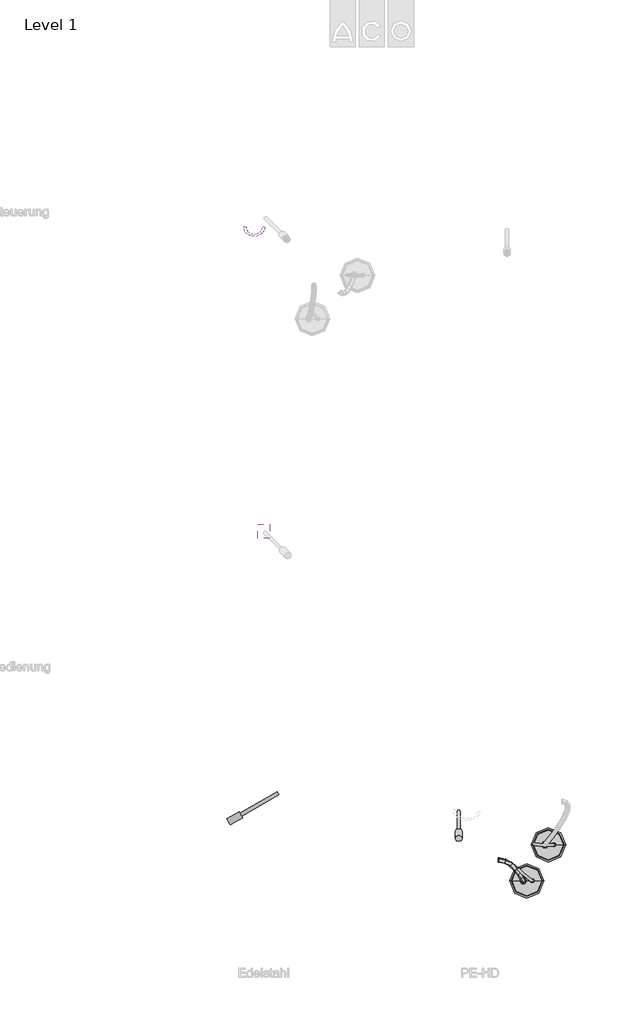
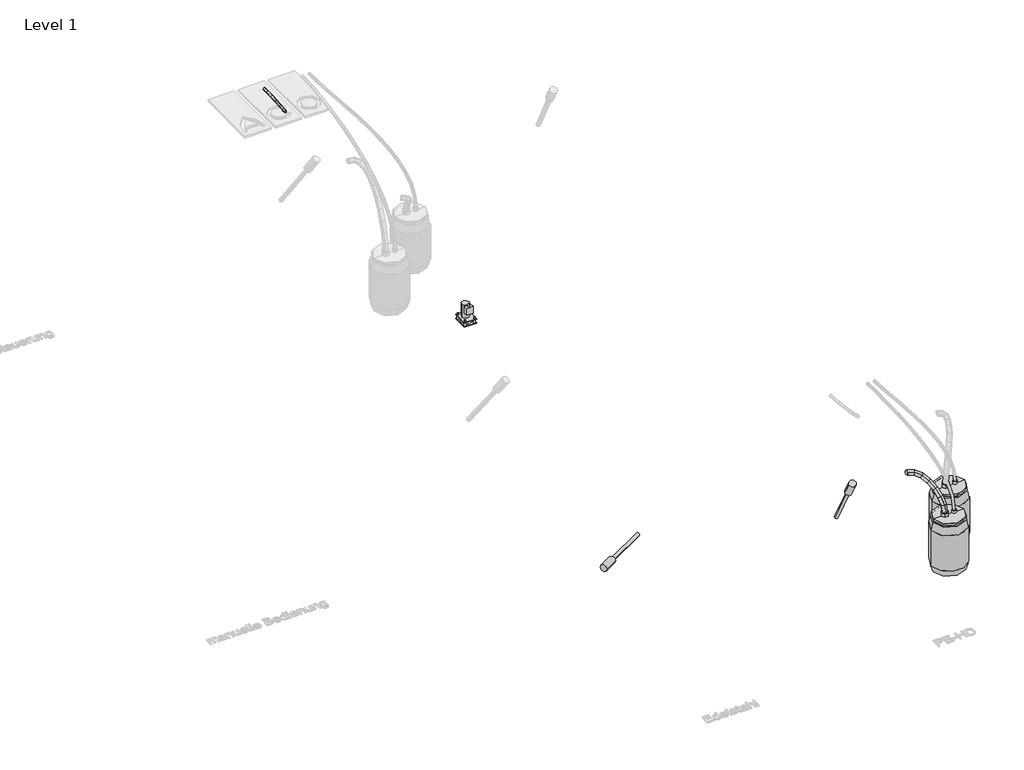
# One storey, part 1 of 6: 5 unitary equipment elements, 2 pipe segments.
"""IFC4 building model written with IfcOpenShell, lengths in millimetres."""

from ifc_helpers import new_model, si_unit, frame, origin, place, context, project, spatial, circle_curve, ellipse_curve, transform, mapped, element, save
from ifc_brep_helpers import plane_surface, cylinder_surface, advanced_brep
from components import ns4_677a0f8f, std_bcf9d813, std_59afe5f4

model = new_model("IFC4")

# Units and contexts
model_context = context("Model", 3, world=origin())
ifc_project = project(units=[si_unit("LENGTHUNIT", "METRE", prefix="MILLI")], contexts=[model_context])

# Site, building, storey
site = spatial("IfcSite", under=ifc_project)
building = spatial("IfcBuilding", under=site)
storey = spatial("IfcBuildingStorey", under=building, Name="Level 1", Elevation=0.0)

# Pipe segments
placement = place(None, origin())
element("IfcPipeSegment", 1, ObjectType="Flex - Round", at=placement, inside=storey, context=model_context, shape_type="AdvancedBrep", body=[
    advanced_brep(
    [(2705.0, 2470.0, 633.6079188), (2680.0, 2445.0, 633.6079188), (2655.0, 2470.0, 633.6079188), (2680.0, 2495.0, 633.6079188), (2705.0, 2470.0, 638.9932244), (2680.0, 2445.0, 640.1660876), (2655.0, 2470.0, 637.0497281), (2680.0, 2495.0, 635.8768648), (2405.5, 2715.1686708, 1053.9324494), (2405.5, 2722.4324494, 1019.3313292), (2405.5, 2687.8313292, 1012.0675506), (2405.5, 2680.5675506, 1046.6686708), (2698.9920305, 2483.2593617, 715.5907442), (2673.8107981, 2458.6593346, 719.0741965), (2649.386914, 2482.3878687, 708.612752), (2674.5681464, 2506.9878957, 705.1292997), (2681.0769089, 2517.5213547, 797.4116304), (2655.6345473, 2493.4207273, 802.0876964), (2632.7168517, 2514.2687328, 784.7472766), (2658.1592133, 2538.3693601, 780.0712105), (2651.4850718, 2564.3650989, 874.9840204), (2626.2434815, 2539.9466515, 879.1337823), (2605.1763503, 2557.8652218, 856.942271), (2630.4179406, 2582.2836692, 852.7925092), (2610.0898568, 2615.8277319, 944.1428437), (2586.0100897, 2589.9649031, 946.3515522), (2567.3090462, 2604.9419474, 920.2070277), (2591.3888133, 2630.8047762, 917.9983191), (2556.189398, 2664.1043847, 1000.6846708), (2535.3450293, 2635.3437289, 999.4994316), (2520.233779, 2647.1055279, 969.5891976), (2541.0781477, 2675.8661836, 970.7744367), (2488.331597, 2700.8119739, 1039.6819612), (2474.939493, 2668.0200252, 1034.2139701), (2465.819621, 2676.5407958, 1000.8605428), (2479.211725, 2709.3327445, 1006.3285339), (2413.2076157, 2715.1686708, 1053.9324494), (2409.2823248, 2680.5675506, 1046.6686708), (2406.7398879, 2687.8313292, 1012.0675506), (2410.6651787, 2722.4324494, 1019.3313292)],
    [
        (0, 1, circle_curve(frame((2680.0, 2470.0, 633.6079188), z_axis=(0.0, 0.0, -1.0), x_axis=(1.0, 0.0, 0.0)), 25.0)),
        (1, 2, circle_curve(frame((2680.0, 2470.0, 633.6079188), z_axis=(0.0, 0.0, -1.0), x_axis=(1.0, 0.0, 0.0)), 25.0)),
        (2, 3, circle_curve(frame((2680.0, 2470.0, 633.6079188), z_axis=(0.0, 0.0, -1.0), x_axis=(1.0, 0.0, 0.0)), 25.0)),
        (3, 0, circle_curve(frame((2680.0, 2470.0, 633.6079188), z_axis=(0.0, 0.0, -1.0), x_axis=(1.0, 0.0, 0.0)), 25.0)),
        (0, 4),
        (4, 5, ellipse_curve(frame((2680.0, 2470.0, 638.0214762), z_axis=(0.03869867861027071, -0.08540652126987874, -0.9955943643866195), x_axis=(-0.4109018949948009, 0.9068449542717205, -0.09376492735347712)), 25.1106283, 25.0)),
        (5, 1),
        (5, 6, ellipse_curve(frame((2680.0, 2470.0, 638.0214762), z_axis=(0.03869867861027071, -0.08540652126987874, -0.9955943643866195), x_axis=(-0.4109018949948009, 0.9068449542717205, -0.09376492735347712)), 25.1106283, 25.0)),
        (6, 2),
        (6, 7, ellipse_curve(frame((2680.0, 2470.0, 638.0214762), z_axis=(0.03869867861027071, -0.08540652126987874, -0.9955943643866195), x_axis=(-0.4109018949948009, 0.9068449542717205, -0.09376492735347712)), 25.1106283, 25.0)),
        (7, 3),
        (7, 4, ellipse_curve(frame((2680.0, 2470.0, 638.0214762), z_axis=(0.03869867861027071, -0.08540652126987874, -0.9955943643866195), x_axis=(-0.4109018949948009, 0.9068449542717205, -0.09376492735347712)), 25.1106283, 25.0)),
        (8, 9, circle_curve(frame((2405.5, 2701.5, 1033.0), z_axis=(-1.0, 0.0, 0.0), x_axis=(0.0, 0.546746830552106, 0.8372979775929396)), 25.0)),
        (9, 10, circle_curve(frame((2405.5, 2701.5, 1033.0), z_axis=(-1.0, 0.0, 0.0), x_axis=(0.0, 0.546746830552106, 0.8372979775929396)), 25.0)),
        (10, 11, circle_curve(frame((2405.5, 2701.5, 1033.0), z_axis=(-1.0, 0.0, 0.0), x_axis=(0.0, 0.546746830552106, 0.8372979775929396)), 25.0)),
        (11, 8, circle_curve(frame((2405.5, 2701.5, 1033.0), z_axis=(-1.0, 0.0, 0.0), x_axis=(0.0, 0.546746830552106, 0.8372979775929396)), 25.0)),
        (4, 12),
        (12, 13, ellipse_curve(frame((2674.1894723, 2482.8236152, 712.1017481), z_axis=(0.13862896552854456, -0.2765614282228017, -0.9509446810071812), x_axis=(-0.4770582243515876, 0.8228186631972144, -0.3088444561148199)), 25.2031893, 25.0)),
        (13, 5),
        (13, 14, ellipse_curve(frame((2674.1894723, 2482.8236152, 712.1017481), z_axis=(0.13862896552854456, -0.2765614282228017, -0.9509446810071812), x_axis=(-0.4770582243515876, 0.8228186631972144, -0.3088444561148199)), 25.2031893, 25.0)),
        (14, 6),
        (14, 15, ellipse_curve(frame((2674.1894723, 2482.8236152, 712.1017481), z_axis=(0.13862896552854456, -0.2765614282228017, -0.9509446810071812), x_axis=(-0.4770582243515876, 0.8228186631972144, -0.3088444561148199)), 25.2031893, 25.0)),
        (15, 7),
        (15, 12, ellipse_curve(frame((2674.1894723, 2482.8236152, 712.1017481), z_axis=(0.13862896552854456, -0.2765614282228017, -0.9509446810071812), x_axis=(-0.4770582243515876, 0.8228186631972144, -0.3088444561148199)), 25.2031893, 25.0)),
        (12, 16),
        (16, 17, ellipse_curve(frame((2656.8968803, 2515.8950437, 791.0794535), z_axis=(0.25526570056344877, -0.43683369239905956, -0.8625634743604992), x_axis=(-0.6140354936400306, 0.61587461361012, -0.49361814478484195)), 25.1054761, 25.0)),
        (17, 13),
        (17, 18, ellipse_curve(frame((2656.8968803, 2515.8950437, 791.0794535), z_axis=(0.25526570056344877, -0.43683369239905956, -0.8625634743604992), x_axis=(-0.6140354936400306, 0.61587461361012, -0.49361814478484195)), 25.1054761, 25.0)),
        (18, 14),
        (18, 19, ellipse_curve(frame((2656.8968803, 2515.8950437, 791.0794535), z_axis=(0.25526570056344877, -0.43683369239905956, -0.8625634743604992), x_axis=(-0.6140354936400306, 0.61587461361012, -0.49361814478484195)), 25.1054761, 25.0)),
        (19, 15),
        (19, 16, ellipse_curve(frame((2656.8968803, 2515.8950437, 791.0794535), z_axis=(0.25526570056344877, -0.43683369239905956, -0.8625634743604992), x_axis=(-0.6140354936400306, 0.61587461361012, -0.49361814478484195)), 25.1054761, 25.0)),
        (16, 20),
        (20, 21, ellipse_curve(frame((2628.3307111, 2561.1151603, 865.9631457), z_axis=(0.37283117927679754, -0.5164120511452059, -0.7709186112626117), x_axis=(-0.7686667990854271, 0.29349250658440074, -0.5683427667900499)), 25.0796862, 25.0)),
        (21, 17),
        (21, 22, ellipse_curve(frame((2628.3307111, 2561.1151603, 865.9631457), z_axis=(0.37283117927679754, -0.5164120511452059, -0.7709186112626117), x_axis=(-0.7686667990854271, 0.29349250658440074, -0.5683427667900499)), 25.0796862, 25.0)),
        (22, 18),
        (22, 23, ellipse_curve(frame((2628.3307111, 2561.1151603, 865.9631457), z_axis=(0.37283117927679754, -0.5164120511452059, -0.7709186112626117), x_axis=(-0.7686667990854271, 0.29349250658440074, -0.5683427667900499)), 25.0796862, 25.0)),
        (23, 19),
        (23, 20, ellipse_curve(frame((2628.3307111, 2561.1151603, 865.9631457), z_axis=(0.37283117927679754, -0.5164120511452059, -0.7709186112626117), x_axis=(-0.7686667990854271, 0.29349250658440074, -0.5683427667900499)), 25.0796862, 25.0)),
        (20, 24),
        (24, 25, ellipse_curve(frame((2588.6994515, 2610.3848396, 932.1749357), z_axis=(0.5121884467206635, -0.5343040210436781, -0.672444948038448), x_axis=(-0.8183815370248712, -0.0660460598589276, -0.5708673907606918)), 25.1115167, 25.0)),
        (25, 21),
        (25, 26, ellipse_curve(frame((2588.6994515, 2610.3848396, 932.1749357), z_axis=(0.5121884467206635, -0.5343040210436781, -0.672444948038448), x_axis=(-0.8183815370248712, -0.0660460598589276, -0.5708673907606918)), 25.1115167, 25.0)),
        (26, 22),
        (26, 27, ellipse_curve(frame((2588.6994515, 2610.3848396, 932.1749357), z_axis=(0.5121884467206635, -0.5343040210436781, -0.672444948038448), x_axis=(-0.8183815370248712, -0.0660460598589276, -0.5708673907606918)), 25.1115167, 25.0)),
        (27, 23),
        (27, 24, ellipse_curve(frame((2588.6994515, 2610.3848396, 932.1749357), z_axis=(0.5121884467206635, -0.5343040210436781, -0.672444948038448), x_axis=(-0.8183815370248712, -0.0660460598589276, -0.5708673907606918)), 25.1115167, 25.0)),
        (24, 28),
        (28, 29, ellipse_curve(frame((2538.2115885, 2655.6049563, 985.1369342), z_axis=(0.6926210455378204, -0.479783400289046, -0.5385944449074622), x_axis=(-0.7158302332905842, -0.36541480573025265, -0.5950286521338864)), 25.2426199, 25.0)),
        (29, 25),
        (29, 30, ellipse_curve(frame((2538.2115885, 2655.6049563, 985.1369342), z_axis=(0.6926210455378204, -0.479783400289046, -0.5385944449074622), x_axis=(-0.7158302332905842, -0.36541480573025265, -0.5950286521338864)), 25.2426199, 25.0)),
        (30, 26),
        (30, 31, ellipse_curve(frame((2538.2115885, 2655.6049563, 985.1369342), z_axis=(0.6926210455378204, -0.479783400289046, -0.5385944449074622), x_axis=(-0.7158302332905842, -0.36541480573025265, -0.5950286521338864)), 25.2426199, 25.0)),
        (31, 27),
        (31, 28, ellipse_curve(frame((2538.2115885, 2655.6049563, 985.1369342), z_axis=(0.6926210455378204, -0.479783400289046, -0.5385944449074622), x_axis=(-0.7158302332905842, -0.36541480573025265, -0.5950286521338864)), 25.2426199, 25.0)),
        (28, 32),
        (32, 33, ellipse_curve(frame((2477.075609, 2688.6763848, 1020.271252), z_axis=(0.8935799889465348, -0.3109465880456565, -0.32377001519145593), x_axis=(-0.44868983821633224, -0.5963929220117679, -0.6655771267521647)), 25.5224018, 25.0)),
        (33, 29),
        (33, 34, ellipse_curve(frame((2477.075609, 2688.6763848, 1020.271252), z_axis=(0.8935799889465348, -0.3109465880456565, -0.32377001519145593), x_axis=(-0.44868983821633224, -0.5963929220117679, -0.6655771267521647)), 25.5224018, 25.0)),
        (34, 30),
        (34, 35, ellipse_curve(frame((2477.075609, 2688.6763848, 1020.271252), z_axis=(0.8935799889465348, -0.3109465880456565, -0.32377001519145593), x_axis=(-0.44868983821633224, -0.5963929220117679, -0.6655771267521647)), 25.5224018, 25.0)),
        (35, 31),
        (35, 32, ellipse_curve(frame((2477.075609, 2688.6763848, 1020.271252), z_axis=(0.8935799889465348, -0.3109465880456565, -0.32377001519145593), x_axis=(-0.44868983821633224, -0.5963929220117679, -0.6655771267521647)), 25.5224018, 25.0)),
        (32, 36),
        (36, 37, ellipse_curve(frame((2409.9737518, 2701.5, 1033.0), z_axis=(0.9913644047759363, -0.09307068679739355, -0.09238216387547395), x_axis=(-0.1311358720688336, -0.703598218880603, -0.6983931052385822)), 25.2177705, 25.0)),
        (37, 33),
        (37, 38, ellipse_curve(frame((2409.9737518, 2701.5, 1033.0), z_axis=(0.9913644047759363, -0.09307068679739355, -0.09238216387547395), x_axis=(-0.1311358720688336, -0.703598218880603, -0.6983931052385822)), 25.2177705, 25.0)),
        (38, 34),
        (38, 39, ellipse_curve(frame((2409.9737518, 2701.5, 1033.0), z_axis=(0.9913644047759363, -0.09307068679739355, -0.09238216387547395), x_axis=(-0.1311358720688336, -0.703598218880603, -0.6983931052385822)), 25.2177705, 25.0)),
        (39, 35),
        (39, 36, ellipse_curve(frame((2409.9737518, 2701.5, 1033.0), z_axis=(0.9913644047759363, -0.09307068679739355, -0.09238216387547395), x_axis=(-0.1311358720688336, -0.703598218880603, -0.6983931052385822)), 25.2177705, 25.0)),
        (36, 8),
        (11, 37),
        (10, 38),
        (9, 39),
    ],
    [
        plane_surface(frame((2680.0, 2445.0, 633.6079188), z_axis=(0.0, 0.0, -1.0), x_axis=(1.0, 0.0, 0.0))),
        cylinder_surface(frame((2680.0, 2470.0, 633.6079188), z_axis=(0.0, 0.0, -1.0), x_axis=(1.0, 0.0, 0.0)), 25.0),
        plane_surface(frame((2405.5, 2701.5, 1008.0), z_axis=(-1.0, 0.0, 0.0), x_axis=(0.0, -1.0, 0.0))),
        cylinder_surface(frame((2680.0, 2470.0, 638.0214762), z_axis=(0.07705637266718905, -0.1700605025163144, -0.9824162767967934), x_axis=(0.997004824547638, 0.006610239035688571, 0.07705637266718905)), 25.0),
        cylinder_surface(frame((2674.1894723, 2482.8236152, 712.1017481), z_axis=(0.1979662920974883, -0.37860305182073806, -0.9041399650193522), x_axis=(0.9795072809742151, 0.04151741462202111, 0.1970832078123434)), 25.0),
        cylinder_surface(frame((2656.8968803, 2515.8950437, 791.0794535), z_axis=(0.3104202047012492, -0.4913937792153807, -0.8137391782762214), x_axis=(0.9479045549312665, 0.09559885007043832, 0.3038713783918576)), 25.0),
        cylinder_surface(frame((2628.3307111, 2561.1151603, 865.9631457), z_axis=(0.4328729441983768, -0.5381487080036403, -0.7231991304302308), x_axis=(0.8958723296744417, 0.1676691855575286, 0.41146058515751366)), 25.0),
        cylinder_surface(frame((2588.6994515, 2610.3848396, 932.1749357), z_axis=(0.586954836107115, -0.5257137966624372, -0.6157182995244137), x_axis=(0.8010308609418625, 0.26660577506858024, 0.5359766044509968)), 25.0),
        cylinder_surface(frame((2538.2115885, 2655.6049563, 985.1369342), z_axis=(0.7849729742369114, -0.4246301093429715, -0.4511171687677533), x_axis=(0.6095574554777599, 0.3992407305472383, 0.6848697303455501)), 25.0),
        cylinder_surface(frame((2477.075609, 2688.6763848, 1020.271252), z_axis=(0.965606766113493, -0.1845339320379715, -0.1831687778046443), x_axis=(0.25426018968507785, 0.5228765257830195, 0.8136042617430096)), 25.0),
        cylinder_surface(frame((2409.9737518, 2701.5, 1033.0), z_axis=(1.0000000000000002, 0.0, 0.0), x_axis=(0.0, 0.546746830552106, 0.8372979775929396)), 25.0),
    ],
    [
        (0, [[1, 2, 3, 4]]),
        (1, [[-1, 5, 6, 7]]),
        (1, [[-2, -7, 8, 9]]),
        (1, [[-3, -9, 10, 11]]),
        (1, [[-4, -11, 12, -5]]),
        (2, [[13, 14, 15, 16]]),
        (3, [[-6, 17, 18, 19]]),
        (3, [[-8, -19, 20, 21]]),
        (3, [[-10, -21, 22, 23]]),
        (3, [[-12, -23, 24, -17]]),
        (4, [[-18, 25, 26, 27]]),
        (4, [[-20, -27, 28, 29]]),
        (4, [[-22, -29, 30, 31]]),
        (4, [[-24, -31, 32, -25]]),
        (5, [[-26, 33, 34, 35]]),
        (5, [[-28, -35, 36, 37]]),
        (5, [[-30, -37, 38, 39]]),
        (5, [[-32, -39, 40, -33]]),
        (6, [[-34, 41, 42, 43]]),
        (6, [[-36, -43, 44, 45]]),
        (6, [[-38, -45, 46, 47]]),
        (6, [[-40, -47, 48, -41]]),
        (7, [[-42, 49, 50, 51]]),
        (7, [[-44, -51, 52, 53]]),
        (7, [[-46, -53, 54, 55]]),
        (7, [[-48, -55, 56, -49]]),
        (8, [[-50, 57, 58, 59]]),
        (8, [[-52, -59, 60, 61]]),
        (8, [[-54, -61, 62, 63]]),
        (8, [[-56, -63, 64, -57]]),
        (9, [[-58, 65, 66, 67]]),
        (9, [[-60, -67, 68, 69]]),
        (9, [[-62, -69, 70, 71]]),
        (9, [[-64, -71, 72, -65]]),
        (10, [[-66, 73, -16, 74]]),
        (10, [[-68, -74, -15, 75]]),
        (10, [[-70, -75, -14, 76]]),
        (10, [[-72, -76, -13, -73]]),
    ],
),
])
element("IfcPipeSegment", 2, ObjectType="Flex - Round", at=placement, inside=storey, context=model_context, shape_type="AdvancedBrep", body=[
    advanced_brep(
    [(-187.5, 9730.0, 1784.0), (-200.0, 9730.0, 1771.5), (-212.5, 9730.0, 1784.0), (-200.0, 9730.0, 1796.5), (-187.5, 9724.759357, 1784.0), (-200.0, 9724.0243361, 1771.5), (-212.5, 9727.6105543, 1784.0), (-200.0, 9728.3455751, 1796.5), (-403.5826381, 9730.0, 2111.4921518), (-397.0078482, 9730.0, 2095.0826381), (-413.4173619, 9730.0, 2088.5078482), (-419.9921518, 9730.0, 2104.9173619), (-197.2026504, 9684.0459208, 1798.705216), (-210.0860753, 9681.7020049, 1786.78633), (-220.7153183, 9693.1381344, 1796.451034), (-207.8318934, 9695.4820503, 1808.36992), (-222.2190918, 9652.7190245, 1836.6198226), (-235.8229476, 9649.4729474, 1825.7928127), (-242.9371582, 9665.3107844, 1830.1301774), (-229.3333024, 9668.5568615, 1840.9571873), (-256.5618153, 9634.4678019, 1888.6692261), (-270.6555542, 9630.9613795, 1878.5846769), (-275.3795909, 9648.0694592, 1879.2995239), (-261.285852, 9651.5758817, 1889.3840731), (-295.5413191, 9628.4441721, 1947.7460759), (-309.9960759, 9624.8819603, 1938.2086809), (-312.9586809, 9642.2622398, 1936.2539241), (-298.5039241, 9645.8244516, 1945.7913191), (-334.5208228, 9634.4678019, 2006.8229256), (-349.3365975, 9630.9613795, 1997.832685), (-350.537771, 9648.0694592, 1993.2083244), (-335.7219962, 9651.5758817, 2002.198565), (-368.8635463, 9652.7190245, 2058.8723291), (-384.1692041, 9649.4729474, 2050.6245492), (-382.9802037, 9665.3107844, 2042.3776709), (-367.6745459, 9668.5568615, 2050.6254508), (-393.8799877, 9684.0459208, 2096.7869358), (-409.9060764, 9681.7020049, 2089.6310319), (-405.2020436, 9693.1381344, 2076.0568142), (-389.1759548, 9695.4820503, 2083.2127181), (-403.5826381, 9724.759357, 2111.4921518), (-419.9921518, 9724.0243361, 2104.9173619), (-413.4173619, 9727.6105543, 2088.5078482), (-397.0078482, 9728.3455751, 2095.0826381)],
    [
        (0, 1, circle_curve(frame((-200.0, 9730.0, 1784.0), z_axis=(0.0, 1.0, 0.0), x_axis=(1.0, 0.0, 0.0)), 12.5)),
        (1, 2, circle_curve(frame((-200.0, 9730.0, 1784.0), z_axis=(0.0, 1.0, 0.0), x_axis=(1.0, 0.0, 0.0)), 12.5)),
        (2, 3, circle_curve(frame((-200.0, 9730.0, 1784.0), z_axis=(0.0, 1.0, 0.0), x_axis=(1.0, 0.0, 0.0)), 12.5)),
        (3, 0, circle_curve(frame((-200.0, 9730.0, 1784.0), z_axis=(0.0, 1.0, 0.0), x_axis=(1.0, 0.0, 0.0)), 12.5)),
        (0, 4),
        (4, 5, ellipse_curve(frame((-200.0, 9726.1849556, 1784.0), z_axis=(0.11167842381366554, 0.9792239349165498, -0.1692584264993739), x_axis=(-0.5392897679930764, 0.2027818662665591, 0.8173408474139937)), 12.7652109, 12.5)),
        (5, 1),
        (5, 6, ellipse_curve(frame((-200.0, 9726.1849556, 1784.0), z_axis=(0.11167842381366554, 0.9792239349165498, -0.1692584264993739), x_axis=(-0.5392897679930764, 0.2027818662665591, 0.8173408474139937)), 12.7652109, 12.5)),
        (6, 2),
        (6, 7, ellipse_curve(frame((-200.0, 9726.1849556, 1784.0), z_axis=(0.11167842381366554, 0.9792239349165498, -0.1692584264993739), x_axis=(-0.5392897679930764, 0.2027818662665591, 0.8173408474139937)), 12.7652109, 12.5)),
        (7, 3),
        (7, 4, ellipse_curve(frame((-200.0, 9726.1849556, 1784.0), z_axis=(0.11167842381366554, 0.9792239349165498, -0.1692584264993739), x_axis=(-0.5392897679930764, 0.2027818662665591, 0.8173408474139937)), 12.7652109, 12.5)),
        (8, 9, circle_curve(frame((-408.5, 9730.0, 2100.0), z_axis=(0.0, 1.0, 0.0), x_axis=(0.3933889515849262, 0.0, 0.9193721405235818)), 12.5)),
        (9, 10, circle_curve(frame((-408.5, 9730.0, 2100.0), z_axis=(0.0, 1.0, 0.0), x_axis=(0.3933889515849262, 0.0, 0.9193721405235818)), 12.5)),
        (10, 11, circle_curve(frame((-408.5, 9730.0, 2100.0), z_axis=(0.0, 1.0, 0.0), x_axis=(0.3933889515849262, 0.0, 0.9193721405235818)), 12.5)),
        (11, 8, circle_curve(frame((-408.5, 9730.0, 2100.0), z_axis=(0.0, 1.0, 0.0), x_axis=(0.3933889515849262, 0.0, 0.9193721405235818)), 12.5)),
        (4, 12),
        (12, 13, ellipse_curve(frame((-208.9589844, 9688.5920276, 1797.578125), z_axis=(0.3495925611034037, 0.7726943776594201, -0.5298381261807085), x_axis=(-0.4255473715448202, 0.6347782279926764, 0.644954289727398)), 13.0040146, 12.5)),
        (13, 5),
        (13, 14, ellipse_curve(frame((-208.9589844, 9688.5920276, 1797.578125), z_axis=(0.3495925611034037, 0.7726943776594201, -0.5298381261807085), x_axis=(-0.4255473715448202, 0.6347782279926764, 0.644954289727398)), 13.0040146, 12.5)),
        (14, 6),
        (14, 15, ellipse_curve(frame((-208.9589844, 9688.5920276, 1797.578125), z_axis=(0.3495925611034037, 0.7726943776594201, -0.5298381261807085), x_axis=(-0.4255473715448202, 0.6347782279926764, 0.644954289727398)), 13.0040146, 12.5)),
        (15, 7),
        (15, 12, ellipse_curve(frame((-208.9589844, 9688.5920276, 1797.578125), z_axis=(0.3495925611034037, 0.7726943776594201, -0.5298381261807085), x_axis=(-0.4255473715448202, 0.6347782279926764, 0.644954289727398)), 13.0040146, 12.5)),
        (12, 16),
        (16, 17, ellipse_curve(frame((-232.578125, 9659.0149045, 1833.375), z_axis=(0.49727645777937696, 0.4297716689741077, -0.7536659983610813), x_axis=(-0.2366889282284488, 0.9029376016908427, 0.3587227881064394)), 12.6607239, 12.5)),
        (17, 13),
        (17, 18, ellipse_curve(frame((-232.578125, 9659.0149045, 1833.375), z_axis=(0.49727645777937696, 0.4297716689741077, -0.7536659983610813), x_axis=(-0.2366889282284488, 0.9029376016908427, 0.3587227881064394)), 12.6607239, 12.5)),
        (18, 14),
        (18, 19, ellipse_curve(frame((-232.578125, 9659.0149045, 1833.375), z_axis=(0.49727645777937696, 0.4297716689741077, -0.7536659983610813), x_axis=(-0.2366889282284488, 0.9029376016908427, 0.3587227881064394)), 12.6607239, 12.5)),
        (19, 15),
        (19, 16, ellipse_curve(frame((-232.578125, 9659.0149045, 1833.375), z_axis=(0.49727645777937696, 0.4297716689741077, -0.7536659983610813), x_axis=(-0.2366889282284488, 0.9029376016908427, 0.3587227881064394)), 12.6607239, 12.5)),
        (16, 20),
        (20, 21, ellipse_curve(frame((-265.9707031, 9641.2686306, 1883.984375), z_axis=(0.5413528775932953, 0.18376578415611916, -0.8204676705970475), x_axis=(-0.1012056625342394, 0.9829700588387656, 0.15338604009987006)), 12.5626535, 12.5)),
        (21, 17),
        (21, 22, ellipse_curve(frame((-265.9707031, 9641.2686306, 1883.984375), z_axis=(0.5413528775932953, 0.18376578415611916, -0.8204676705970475), x_axis=(-0.1012056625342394, 0.9829700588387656, 0.15338604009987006)), 12.5626535, 12.5)),
        (22, 18),
        (22, 23, ellipse_curve(frame((-265.9707031, 9641.2686306, 1883.984375), z_axis=(0.5413528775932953, 0.18376578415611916, -0.8204676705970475), x_axis=(-0.1012056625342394, 0.9829700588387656, 0.15338604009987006)), 12.5626535, 12.5)),
        (23, 19),
        (23, 20, ellipse_curve(frame((-265.9707031, 9641.2686306, 1883.984375), z_axis=(0.5413528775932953, 0.18376578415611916, -0.8204676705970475), x_axis=(-0.1012056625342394, 0.9829700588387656, 0.15338604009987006)), 12.5626535, 12.5)),
        (20, 24),
        (24, 25, ellipse_curve(frame((-304.25, 9635.3532059, 1942.0), z_axis=(0.5507318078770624, 0.0, -0.8346822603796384), x_axis=(0.0, 1.0, 0.0)), 12.5451877, 12.5)),
        (25, 21),
        (25, 26, ellipse_curve(frame((-304.25, 9635.3532059, 1942.0), z_axis=(0.5507318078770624, 0.0, -0.8346822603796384), x_axis=(0.0, 1.0, 0.0)), 12.5451877, 12.5)),
        (26, 22),
        (26, 27, ellipse_curve(frame((-304.25, 9635.3532059, 1942.0), z_axis=(0.5507318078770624, 0.0, -0.8346822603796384), x_axis=(0.0, 1.0, 0.0)), 12.5451877, 12.5)),
        (27, 23),
        (27, 24, ellipse_curve(frame((-304.25, 9635.3532059, 1942.0), z_axis=(0.5507318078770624, 0.0, -0.8346822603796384), x_axis=(0.0, 1.0, 0.0)), 12.5451877, 12.5)),
        (24, 28),
        (28, 29, ellipse_curve(frame((-342.5292969, 9641.2686306, 2000.015625), z_axis=(0.541352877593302, -0.18376578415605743, -0.8204676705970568), x_axis=(0.10120566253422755, 0.9829700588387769, -0.15338604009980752)), 12.5626535, 12.5)),
        (29, 25),
        (29, 30, ellipse_curve(frame((-342.5292969, 9641.2686306, 2000.015625), z_axis=(0.541352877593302, -0.18376578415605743, -0.8204676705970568), x_axis=(0.10120566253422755, 0.9829700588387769, -0.15338604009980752)), 12.5626535, 12.5)),
        (30, 26),
        (30, 31, ellipse_curve(frame((-342.5292969, 9641.2686306, 2000.015625), z_axis=(0.541352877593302, -0.18376578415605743, -0.8204676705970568), x_axis=(0.10120566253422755, 0.9829700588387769, -0.15338604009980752)), 12.5626535, 12.5)),
        (31, 27),
        (31, 28, ellipse_curve(frame((-342.5292969, 9641.2686306, 2000.015625), z_axis=(0.541352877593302, -0.18376578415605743, -0.8204676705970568), x_axis=(0.10120566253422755, 0.9829700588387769, -0.15338604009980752)), 12.5626535, 12.5)),
        (28, 32),
        (32, 33, ellipse_curve(frame((-375.921875, 9659.0149045, 2050.625), z_axis=(0.49727645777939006, -0.4297716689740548, -0.7536659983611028), x_axis=(0.23668892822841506, 0.9029376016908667, -0.35872278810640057)), 12.6607239, 12.5)),
        (33, 29),
        (33, 34, ellipse_curve(frame((-375.921875, 9659.0149045, 2050.625), z_axis=(0.49727645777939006, -0.4297716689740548, -0.7536659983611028), x_axis=(0.23668892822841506, 0.9029376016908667, -0.35872278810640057)), 12.6607239, 12.5)),
        (34, 30),
        (34, 35, ellipse_curve(frame((-375.921875, 9659.0149045, 2050.625), z_axis=(0.49727645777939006, -0.4297716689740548, -0.7536659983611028), x_axis=(0.23668892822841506, 0.9029376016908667, -0.35872278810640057)), 12.6607239, 12.5)),
        (35, 31),
        (35, 32, ellipse_curve(frame((-375.921875, 9659.0149045, 2050.625), z_axis=(0.49727645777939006, -0.4297716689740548, -0.7536659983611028), x_axis=(0.23668892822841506, 0.9029376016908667, -0.35872278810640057)), 12.6607239, 12.5)),
        (32, 36),
        (36, 37, ellipse_curve(frame((-399.5410156, 9688.5920276, 2086.421875), z_axis=(0.3495925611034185, -0.7726943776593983, -0.5298381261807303), x_axis=(0.4255473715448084, 0.6347782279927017, -0.644954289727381)), 13.0040146, 12.5)),
        (37, 33),
        (37, 38, ellipse_curve(frame((-399.5410156, 9688.5920276, 2086.421875), z_axis=(0.3495925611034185, -0.7726943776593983, -0.5298381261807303), x_axis=(0.4255473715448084, 0.6347782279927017, -0.644954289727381)), 13.0040146, 12.5)),
        (38, 34),
        (38, 39, ellipse_curve(frame((-399.5410156, 9688.5920276, 2086.421875), z_axis=(0.3495925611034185, -0.7726943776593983, -0.5298381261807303), x_axis=(0.4255473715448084, 0.6347782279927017, -0.644954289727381)), 13.0040146, 12.5)),
        (39, 35),
        (39, 36, ellipse_curve(frame((-399.5410156, 9688.5920276, 2086.421875), z_axis=(0.3495925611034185, -0.7726943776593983, -0.5298381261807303), x_axis=(0.4255473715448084, 0.6347782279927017, -0.644954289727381)), 13.0040146, 12.5)),
        (36, 40),
        (40, 41, ellipse_curve(frame((-408.5, 9726.1849556, 2100.0), z_axis=(0.11167842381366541, -0.9792239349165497, -0.16925842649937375), x_axis=(0.5392897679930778, 0.20278186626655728, -0.8173408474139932)), 12.7652109, 12.5)),
        (41, 37),
        (41, 42, ellipse_curve(frame((-408.5, 9726.1849556, 2100.0), z_axis=(0.11167842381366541, -0.9792239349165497, -0.16925842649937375), x_axis=(0.5392897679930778, 0.20278186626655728, -0.8173408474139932)), 12.7652109, 12.5)),
        (42, 38),
        (42, 43, ellipse_curve(frame((-408.5, 9726.1849556, 2100.0), z_axis=(0.11167842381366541, -0.9792239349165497, -0.16925842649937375), x_axis=(0.5392897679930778, 0.20278186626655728, -0.8173408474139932)), 12.7652109, 12.5)),
        (43, 39),
        (43, 40, ellipse_curve(frame((-408.5, 9726.1849556, 2100.0), z_axis=(0.11167842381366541, -0.9792239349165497, -0.16925842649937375), x_axis=(0.5392897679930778, 0.20278186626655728, -0.8173408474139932)), 12.7652109, 12.5)),
        (40, 8),
        (11, 41),
        (10, 42),
        (9, 43),
    ],
    [
        plane_surface(frame((-212.5, 9730.0, 1784.0), z_axis=(0.0, 1.0, 0.0), x_axis=(0.0, 0.0, -1.0))),
        cylinder_surface(frame((-200.0, 9730.0, 1784.0), z_axis=(0.0, 1.0, 0.0), x_axis=(1.0, 0.0, 0.0)), 12.5),
        plane_surface(frame((-421.0, 9730.0, 2100.0), z_axis=(0.0, 1.0, 0.0), x_axis=(0.0, 0.0, 1.0))),
        cylinder_surface(frame((-200.0, 9726.1849556, 1784.0), z_axis=(0.21871637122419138, 0.9177590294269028, -0.3314838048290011), x_axis=(0.9750558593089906, -0.21871637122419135, 0.03780502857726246)), 12.5),
        cylinder_surface(frame((-208.9589844, 9688.5920276, 1797.578125), z_axis=(0.4533694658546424, 0.5677329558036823, -0.6871211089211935), x_axis=(0.8688910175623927, -0.4533694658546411, 0.1987071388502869)), 12.5),
        cylinder_surface(frame((-232.578125, 9659.0149045, 1833.375), z_axis=(0.5285579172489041, 0.28089875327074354, -0.801075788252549), x_axis=(0.7818926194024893, -0.5285579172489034, 0.3305608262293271)), 12.5),
        cylinder_surface(frame((-265.9707031, 9641.2686306, 1883.984375), z_axis=(0.5487480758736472, 0.0847998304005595, -0.8316757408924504), x_axis=(0.7224147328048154, -0.5487480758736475, 0.42070476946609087)), 12.5),
        cylinder_surface(frame((-304.25, 9635.3532059, 1942.0), z_axis=(0.5487480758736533, -0.08479983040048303, -0.8316757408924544), x_axis=(0.6709742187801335, -0.548748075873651, 0.4986673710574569)), 12.5),
        cylinder_surface(frame((-342.5292969, 9641.2686306, 2000.015625), z_axis=(0.52855791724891, -0.2808987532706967, -0.8010757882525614), x_axis=(0.6114963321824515, -0.5285579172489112, 0.588811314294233)), 12.5),
        cylinder_surface(frame((-375.921875, 9659.0149045, 2050.625), z_axis=(0.45336946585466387, -0.5677329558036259, -0.6871211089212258), x_axis=(0.524497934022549, -0.45336946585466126, 0.720665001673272)), 12.5),
        cylinder_surface(frame((-399.5410156, 9688.5920276, 2086.421875), z_axis=(0.21871637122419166, -0.9177590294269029, -0.33148380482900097), x_axis=(0.4183330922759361, -0.2187163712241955, 0.8815671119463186)), 12.5),
        cylinder_surface(frame((-408.5, 9726.1849556, 2100.0), z_axis=(0.0, -1.0000000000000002, 0.0), x_axis=(0.3933889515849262, 0.0, 0.9193721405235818)), 12.5),
    ],
    [
        (0, [[1, 2, 3, 4]]),
        (1, [[-1, 5, 6, 7]]),
        (1, [[-2, -7, 8, 9]]),
        (1, [[-3, -9, 10, 11]]),
        (1, [[-4, -11, 12, -5]]),
        (2, [[13, 14, 15, 16]]),
        (3, [[-6, 17, 18, 19]]),
        (3, [[-8, -19, 20, 21]]),
        (3, [[-10, -21, 22, 23]]),
        (3, [[-12, -23, 24, -17]]),
        (4, [[-18, 25, 26, 27]]),
        (4, [[-20, -27, 28, 29]]),
        (4, [[-22, -29, 30, 31]]),
        (4, [[-24, -31, 32, -25]]),
        (5, [[-26, 33, 34, 35]]),
        (5, [[-28, -35, 36, 37]]),
        (5, [[-30, -37, 38, 39]]),
        (5, [[-32, -39, 40, -33]]),
        (6, [[-34, 41, 42, 43]]),
        (6, [[-36, -43, 44, 45]]),
        (6, [[-38, -45, 46, 47]]),
        (6, [[-40, -47, 48, -41]]),
        (7, [[-42, 49, 50, 51]]),
        (7, [[-44, -51, 52, 53]]),
        (7, [[-46, -53, 54, 55]]),
        (7, [[-48, -55, 56, -49]]),
        (8, [[-50, 57, 58, 59]]),
        (8, [[-52, -59, 60, 61]]),
        (8, [[-54, -61, 62, 63]]),
        (8, [[-56, -63, 64, -57]]),
        (9, [[-58, 65, 66, 67]]),
        (9, [[-60, -67, 68, 69]]),
        (9, [[-62, -69, 70, 71]]),
        (9, [[-64, -71, 72, -65]]),
        (10, [[-66, 73, 74, 75]]),
        (10, [[-68, -75, 76, 77]]),
        (10, [[-70, -77, 78, 79]]),
        (10, [[-72, -79, 80, -73]]),
        (11, [[-74, 81, -16, 82]]),
        (11, [[-76, -82, -15, 83]]),
        (11, [[-78, -83, -14, 84]]),
        (11, [[-80, -84, -13, -81]]),
    ],
),
])

# Unitary equipment
ns4_shape = ns4_677a0f8f(model_context)
element("IfcUnitaryEquipment", 3, ObjectType="ME_ST_lipator s-rm with agitating device_ACO : NS4", at=placement, inside=storey, context=model_context, shape_type="MappedRepresentation", body=[
    mapped(ns4_shape, transform((-200.0, 6350.0, 0.0), x_axis=(1.0, 0.0, 0.0), y_axis=(0.0, 1.0, 0.0), z_axis=(0.0, 0.0, 1.0))),
])
std_shape = std_bcf9d813(model_context)
element("IfcUnitaryEquipment", 4, ObjectType="ZZZ_do not use_ME_ST_WPB_heating rod_ACO : std", at=placement, inside=storey, context=model_context, shape_type="MappedRepresentation", body=[
    mapped(std_shape, transform((-475.8290911, 3190.75, 747.0), x_axis=(-0.49999999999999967, 0.8660254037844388, 0.0), y_axis=(0.0, 0.0, -1.0), z_axis=(-0.8660254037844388, -0.49999999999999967, 0.0))),
])
element("IfcUnitaryEquipment", 5, ObjectType="ZZZ_do not use_ME_ST_WPB_heating rod_ACO : std", at=placement, inside=storey, context=model_context, shape_type="MappedRepresentation", body=[
    mapped(std_shape, transform((1965.0, 3004.4107629, 801.5778996), x_axis=(1.0, 0.0, 0.0), y_axis=(0.0, 0.8812685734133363, 0.4726158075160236), z_axis=(0.0, -0.4726158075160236, 0.8812685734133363))),
])
std_2_shape = std_59afe5f4(model_context)
element("IfcUnitaryEquipment", 6, ObjectType="ME_GEN_UN_waste drum for Lipator_ACO : std", at=placement, inside=storey, context=model_context, shape_type="MappedRepresentation", body=[
    mapped(std_2_shape, transform((2720.0, 2470.0, 0.0), x_axis=(1.0, 0.0, 0.0), y_axis=(0.0, 1.0, 0.0), z_axis=(0.0, 0.0, 1.0))),
])
element("IfcUnitaryEquipment", 7, ObjectType="ME_GEN_UN_waste drum for Lipator_ACO : std", at=placement, inside=storey, context=model_context, shape_type="MappedRepresentation", body=[
    mapped(std_2_shape, transform((2960.0, 2870.0, 0.0), x_axis=(1.0, 0.0, 0.0), y_axis=(0.0, 1.0, 0.0), z_axis=(0.0, 0.0, 1.0))),
])

save(model, "model.ifc")
